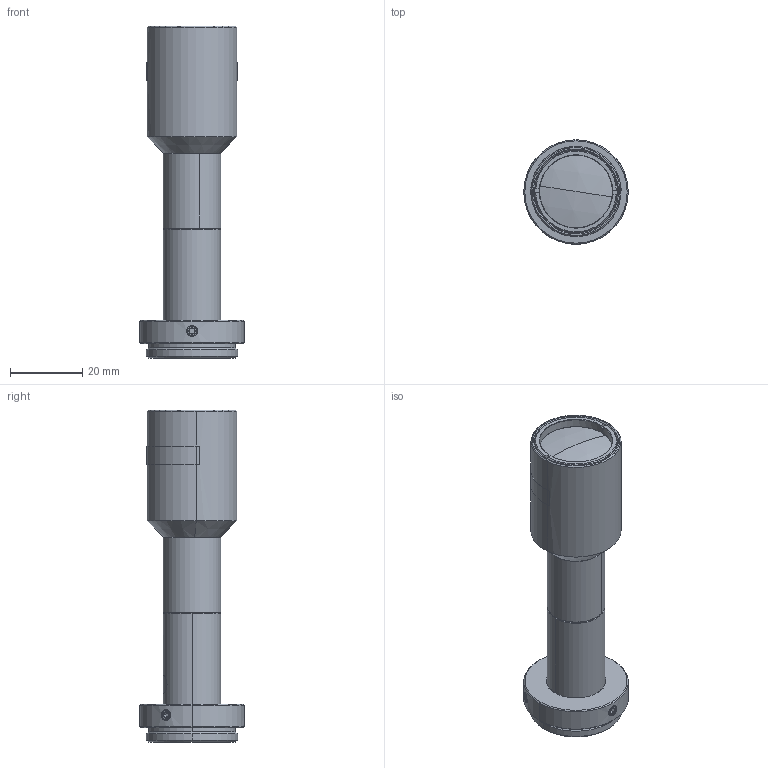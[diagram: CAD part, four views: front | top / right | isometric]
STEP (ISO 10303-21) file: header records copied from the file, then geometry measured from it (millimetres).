
FILE_DESCRIPTION (( 'STEP AP214' ), '1' );
FILE_NAME ('TEC-M0865MP_210311.STEP', '2021-03-11T08:13:18', ( '' ), ( '' ), 'SwSTEP 2.0', 'SolidWorks 2019', '' );
FILE_SCHEMA (( 'AUTOMOTIVE_DESIGN' ));
Length unit declared in the file: millimetre
Products named in the file (1): TEC-M0865MP_210311
Bounding box: 29 x 29 x 92.19 mm (x, y, z)
Volume: 17784.3 mm3; surface area: 15279.7 mm2
Topology: 10 solids, 10 shells, 280 faces, 617 edges, 380 vertices
Faces by surface type: cone 109, cylinder 87, plane 72, bspline 8, sphere 4
Entity records: 12276 total; most frequent: CARTESIAN_POINT 2777, DIRECTION 1389, ORIENTED_EDGE 1234, EDGE_CURVE 617, AXIS2_PLACEMENT_3D 560, VERTEX_POINT 380, EDGE_LOOP 319, UNCERTAINTY_MEASURE_WITH_UNIT 292
